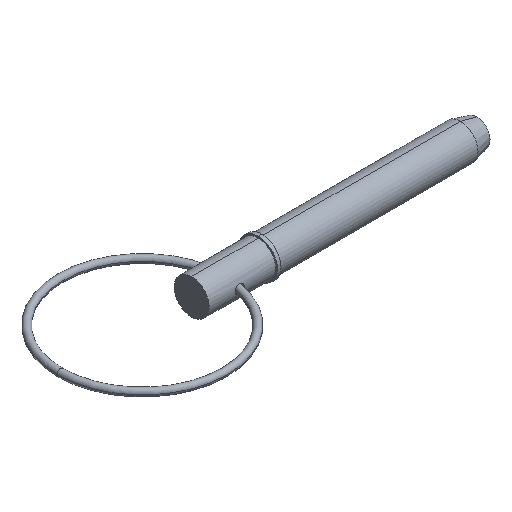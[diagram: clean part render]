
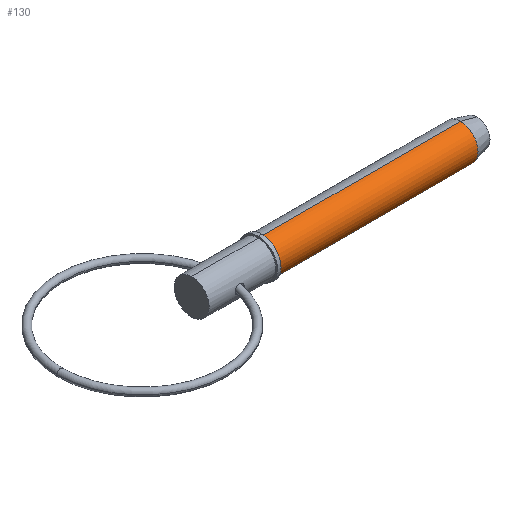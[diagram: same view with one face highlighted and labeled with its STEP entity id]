
A CAD part, isometric view. The second image highlights one B-rep face of the part: STEP entity #130.
In plain terms, the highlighted cylindrical face has radius 4.765 mm (diameter 9.53 mm), a partial arc.
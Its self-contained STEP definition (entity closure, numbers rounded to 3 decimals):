
#5 = EDGE_CURVE ( 'NONE', #407, #267, #704, .T. ) ;
#38 = VECTOR ( 'NONE', #394, 1000. ) ;
#115 = VECTOR ( 'NONE', #920, 1000. ) ;
#130 = ADVANCED_FACE ( 'NONE', ( #307 ), #1007, .T. ) ;
#144 = DIRECTION ( 'NONE',  ( 1., 0., 0. ) ) ;
#159 = EDGE_CURVE ( 'NONE', #267, #955, #616, .T. ) ;
#189 = ORIENTED_EDGE ( 'NONE', *, *, #971, .F. ) ;
#190 = CIRCLE ( 'NONE', #664, 4.765 ) ;
#196 = ORIENTED_EDGE ( 'NONE', *, *, #159, .T. ) ;
#202 = DIRECTION ( 'NONE',  ( 0., 0., -1. ) ) ;
#267 = VERTEX_POINT ( 'NONE', #816 ) ;
#275 = CARTESIAN_POINT ( 'NONE',  ( 73.024, 0., -4.765 ) ) ;
#298 = CARTESIAN_POINT ( 'NONE',  ( 73.024, 0., 4.765 ) ) ;
#303 = CARTESIAN_POINT ( 'NONE',  ( 19.05, 0., 0. ) ) ;
#307 = FACE_OUTER_BOUND ( 'NONE', #739, .T. ) ;
#360 = DIRECTION ( 'NONE',  ( 0., 0., -1. ) ) ;
#379 = CARTESIAN_POINT ( 'NONE',  ( 0., 0., 4.765 ) ) ;
#391 = VERTEX_POINT ( 'NONE', #298 ) ;
#394 = DIRECTION ( 'NONE',  ( 1., 0., 0. ) ) ;
#407 = VERTEX_POINT ( 'NONE', #526 ) ;
#431 = ORIENTED_EDGE ( 'NONE', *, *, #5, .T. ) ;
#433 = CARTESIAN_POINT ( 'NONE',  ( 73.024, 0., 0. ) ) ;
#475 = DIRECTION ( 'NONE',  ( 0., 0., -1. ) ) ;
#526 = CARTESIAN_POINT ( 'NONE',  ( 19.05, 0., 4.765 ) ) ;
#547 = EDGE_CURVE ( 'NONE', #407, #391, #702, .T. ) ;
#616 = LINE ( 'NONE', #623, #38 ) ;
#623 = CARTESIAN_POINT ( 'NONE',  ( 0., 0., -4.765 ) ) ;
#664 = AXIS2_PLACEMENT_3D ( 'NONE', #433, #978, #360 ) ;
#700 = CARTESIAN_POINT ( 'NONE',  ( 0., 0., 0. ) ) ;
#702 = LINE ( 'NONE', #379, #115 ) ;
#704 = CIRCLE ( 'NONE', #946, 4.765 ) ;
#739 = EDGE_LOOP ( 'NONE', ( #1009, #431, #196, #189 ) ) ;
#789 = AXIS2_PLACEMENT_3D ( 'NONE', #700, #144, #475 ) ;
#816 = CARTESIAN_POINT ( 'NONE',  ( 19.05, 0., -4.765 ) ) ;
#920 = DIRECTION ( 'NONE',  ( 1., 0., 0. ) ) ;
#946 = AXIS2_PLACEMENT_3D ( 'NONE', #303, #984, #202 ) ;
#955 = VERTEX_POINT ( 'NONE', #275 ) ;
#971 = EDGE_CURVE ( 'NONE', #391, #955, #190, .T. ) ;
#978 = DIRECTION ( 'NONE',  ( 1., 0., 0. ) ) ;
#984 = DIRECTION ( 'NONE',  ( 1., 0., 0. ) ) ;
#1007 = CYLINDRICAL_SURFACE ( 'NONE', #789, 4.765 ) ;
#1009 = ORIENTED_EDGE ( 'NONE', *, *, #547, .F. ) ;
